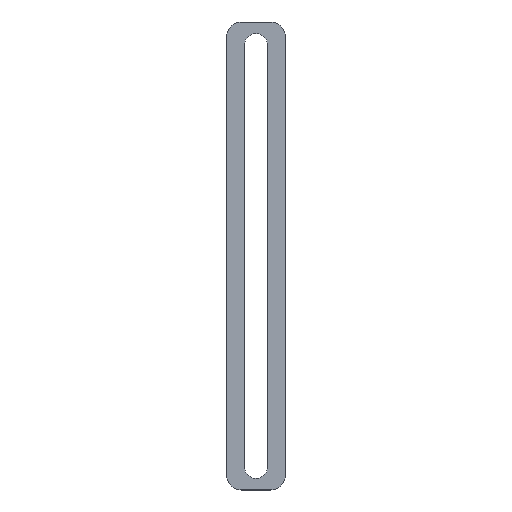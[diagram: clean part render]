
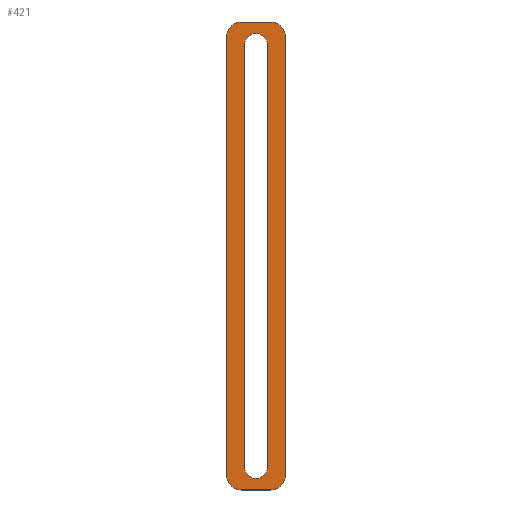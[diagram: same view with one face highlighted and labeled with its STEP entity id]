
A CAD part, top view. The second image highlights one B-rep face of the part: STEP entity #421.
In plain terms, the highlighted planar face has unit normal (0, 0, 1).
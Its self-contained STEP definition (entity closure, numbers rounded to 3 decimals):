
#1 = VERTEX_POINT ( 'NONE', #10 ) ;
#6 = AXIS2_PLACEMENT_3D ( 'NONE', #360, #119, #80 ) ;
#7 = CARTESIAN_POINT ( 'NONE',  ( -2.5, 37.5, 0.5 ) ) ;
#10 = CARTESIAN_POINT ( 'NONE',  ( 5., -37.5, 0.5 ) ) ;
#17 = EDGE_CURVE ( 'NONE', #513, #194, #238, .T. ) ;
#21 = ORIENTED_EDGE ( 'NONE', *, *, #229, .T. ) ;
#28 = ORIENTED_EDGE ( 'NONE', *, *, #443, .F. ) ;
#32 = ORIENTED_EDGE ( 'NONE', *, *, #148, .T. ) ;
#34 = VECTOR ( 'NONE', #50, 1000. ) ;
#45 = AXIS2_PLACEMENT_3D ( 'NONE', #314, #185, #321 ) ;
#47 = ORIENTED_EDGE ( 'NONE', *, *, #502, .T. ) ;
#50 = DIRECTION ( 'NONE',  ( 0., 1., 0. ) ) ;
#60 = DIRECTION ( 'NONE',  ( 0., 1., 0. ) ) ;
#61 = EDGE_LOOP ( 'NONE', ( #152, #67, #112, #287 ) ) ;
#62 = AXIS2_PLACEMENT_3D ( 'NONE', #370, #244, #87 ) ;
#67 = ORIENTED_EDGE ( 'NONE', *, *, #17, .T. ) ;
#78 = ORIENTED_EDGE ( 'NONE', *, *, #273, .F. ) ;
#79 = VECTOR ( 'NONE', #106, 1000. ) ;
#80 = DIRECTION ( 'NONE',  ( -1., 0., 0. ) ) ;
#81 = LINE ( 'NONE', #236, #34 ) ;
#82 = CARTESIAN_POINT ( 'NONE',  ( 2., -36., 0.5 ) ) ;
#87 = DIRECTION ( 'NONE',  ( 1., 0., 0. ) ) ;
#91 = DIRECTION ( 'NONE',  ( -1., 0., 0. ) ) ;
#92 = LINE ( 'NONE', #297, #209 ) ;
#97 = VERTEX_POINT ( 'NONE', #444 ) ;
#100 = EDGE_CURVE ( 'NONE', #479, #231, #153, .T. ) ;
#106 = DIRECTION ( 'NONE',  ( -1., 0., 0. ) ) ;
#112 = ORIENTED_EDGE ( 'NONE', *, *, #192, .T. ) ;
#119 = DIRECTION ( 'NONE',  ( 0., 0., -1. ) ) ;
#122 = DIRECTION ( 'NONE',  ( 0., 0., 1. ) ) ;
#124 = EDGE_CURVE ( 'NONE', #460, #97, #197, .T. ) ;
#125 = CARTESIAN_POINT ( 'NONE',  ( 0., -36., 0.5 ) ) ;
#126 = CARTESIAN_POINT ( 'NONE',  ( -2.5, -40., 0.5 ) ) ;
#129 = AXIS2_PLACEMENT_3D ( 'NONE', #7, #394, #329 ) ;
#133 = EDGE_CURVE ( 'NONE', #513, #479, #81, .T. ) ;
#134 = CARTESIAN_POINT ( 'NONE',  ( 2., 36., 0.5 ) ) ;
#140 = CARTESIAN_POINT ( 'NONE',  ( 2.5, -40., 0.5 ) ) ;
#143 = DIRECTION ( 'NONE',  ( -1., 0., 0. ) ) ;
#145 = CIRCLE ( 'NONE', #274, 2.5 ) ;
#148 = EDGE_CURVE ( 'NONE', #204, #218, #440, .T. ) ;
#152 = ORIENTED_EDGE ( 'NONE', *, *, #133, .F. ) ;
#153 = CIRCLE ( 'NONE', #162, 2. ) ;
#154 = EDGE_CURVE ( 'NONE', #1, #413, #145, .T. ) ;
#155 = FACE_OUTER_BOUND ( 'NONE', #253, .T. ) ;
#159 = CARTESIAN_POINT ( 'NONE',  ( 2.5, -40., 0.5 ) ) ;
#162 = AXIS2_PLACEMENT_3D ( 'NONE', #278, #122, #434 ) ;
#164 = VECTOR ( 'NONE', #422, 1000. ) ;
#180 = CIRCLE ( 'NONE', #62, 2.5 ) ;
#185 = DIRECTION ( 'NONE',  ( 0., 0., -1. ) ) ;
#192 = EDGE_CURVE ( 'NONE', #194, #231, #491, .T. ) ;
#194 = VERTEX_POINT ( 'NONE', #369 ) ;
#197 = CIRCLE ( 'NONE', #6, 2.5 ) ;
#204 = VERTEX_POINT ( 'NONE', #214 ) ;
#209 = VECTOR ( 'NONE', #210, 1000. ) ;
#210 = DIRECTION ( 'NONE',  ( 0., -1., 0. ) ) ;
#214 = CARTESIAN_POINT ( 'NONE',  ( -2.5, 40., 0.5 ) ) ;
#218 = VERTEX_POINT ( 'NONE', #245 ) ;
#222 = CARTESIAN_POINT ( 'NONE',  ( 2.5, 40., 0.5 ) ) ;
#229 = EDGE_CURVE ( 'NONE', #218, #269, #92, .T. ) ;
#231 = VERTEX_POINT ( 'NONE', #290 ) ;
#233 = VECTOR ( 'NONE', #91, 1000. ) ;
#236 = CARTESIAN_POINT ( 'NONE',  ( 2., -36., 0.5 ) ) ;
#238 = CIRCLE ( 'NONE', #408, 2. ) ;
#244 = DIRECTION ( 'NONE',  ( 0., 0., 1. ) ) ;
#245 = CARTESIAN_POINT ( 'NONE',  ( -5., 37.5, 0.5 ) ) ;
#253 = EDGE_LOOP ( 'NONE', ( #463, #28, #317, #423, #32, #21, #47, #78 ) ) ;
#261 = LINE ( 'NONE', #503, #164 ) ;
#269 = VERTEX_POINT ( 'NONE', #334 ) ;
#270 = PLANE ( 'NONE',  #45 ) ;
#273 = EDGE_CURVE ( 'NONE', #413, #469, #461, .T. ) ;
#274 = AXIS2_PLACEMENT_3D ( 'NONE', #286, #446, #143 ) ;
#278 = CARTESIAN_POINT ( 'NONE',  ( 0., 36., 0.5 ) ) ;
#286 = CARTESIAN_POINT ( 'NONE',  ( 2.5, -37.5, 0.5 ) ) ;
#287 = ORIENTED_EDGE ( 'NONE', *, *, #100, .F. ) ;
#290 = CARTESIAN_POINT ( 'NONE',  ( -2., 36., 0.5 ) ) ;
#297 = CARTESIAN_POINT ( 'NONE',  ( -5., 37.5, 0.5 ) ) ;
#312 = VECTOR ( 'NONE', #60, 1000. ) ;
#314 = CARTESIAN_POINT ( 'NONE',  ( 2.5, -37.5, 0.5 ) ) ;
#317 = ORIENTED_EDGE ( 'NONE', *, *, #124, .F. ) ;
#321 = DIRECTION ( 'NONE',  ( -1., 0., 0. ) ) ;
#327 = DIRECTION ( 'NONE',  ( -1., 0., 0. ) ) ;
#329 = DIRECTION ( 'NONE',  ( 1., 0., 0. ) ) ;
#334 = CARTESIAN_POINT ( 'NONE',  ( -5., -37.5, 0.5 ) ) ;
#360 = CARTESIAN_POINT ( 'NONE',  ( 2.5, 37.5, 0.5 ) ) ;
#368 = CARTESIAN_POINT ( 'NONE',  ( -2., -36., 0.5 ) ) ;
#369 = CARTESIAN_POINT ( 'NONE',  ( -2., -36., 0.5 ) ) ;
#370 = CARTESIAN_POINT ( 'NONE',  ( -2.5, -37.5, 0.5 ) ) ;
#394 = DIRECTION ( 'NONE',  ( 0., 0., 1. ) ) ;
#400 = CARTESIAN_POINT ( 'NONE',  ( 2.5, 40., 0.5 ) ) ;
#408 = AXIS2_PLACEMENT_3D ( 'NONE', #125, #438, #327 ) ;
#413 = VERTEX_POINT ( 'NONE', #159 ) ;
#421 = ADVANCED_FACE ( 'NONE', ( #424, #155 ), #270, .F. ) ;
#422 = DIRECTION ( 'NONE',  ( 0., -1., 0. ) ) ;
#423 = ORIENTED_EDGE ( 'NONE', *, *, #511, .T. ) ;
#424 = FACE_BOUND ( 'NONE', #61, .T. ) ;
#434 = DIRECTION ( 'NONE',  ( 1., 0., 0. ) ) ;
#438 = DIRECTION ( 'NONE',  ( 0., 0., -1. ) ) ;
#440 = CIRCLE ( 'NONE', #129, 2.5 ) ;
#443 = EDGE_CURVE ( 'NONE', #97, #1, #261, .T. ) ;
#444 = CARTESIAN_POINT ( 'NONE',  ( 5., 37.5, 0.5 ) ) ;
#445 = LINE ( 'NONE', #400, #233 ) ;
#446 = DIRECTION ( 'NONE',  ( 0., 0., -1. ) ) ;
#460 = VERTEX_POINT ( 'NONE', #222 ) ;
#461 = LINE ( 'NONE', #140, #79 ) ;
#463 = ORIENTED_EDGE ( 'NONE', *, *, #154, .F. ) ;
#469 = VERTEX_POINT ( 'NONE', #126 ) ;
#479 = VERTEX_POINT ( 'NONE', #134 ) ;
#491 = LINE ( 'NONE', #368, #312 ) ;
#502 = EDGE_CURVE ( 'NONE', #269, #469, #180, .T. ) ;
#503 = CARTESIAN_POINT ( 'NONE',  ( 5., 37.5, 0.5 ) ) ;
#511 = EDGE_CURVE ( 'NONE', #460, #204, #445, .T. ) ;
#513 = VERTEX_POINT ( 'NONE', #82 ) ;
